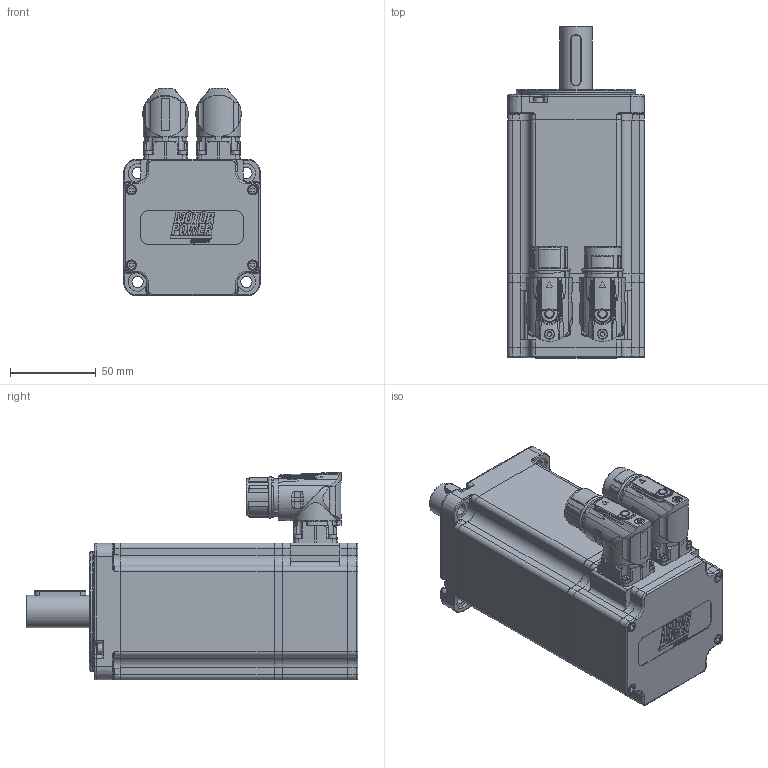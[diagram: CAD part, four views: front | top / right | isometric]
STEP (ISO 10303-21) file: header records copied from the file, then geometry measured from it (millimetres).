
FILE_DESCRIPTION(/* description */ ('Unknown'),/* implementation_level */ '2;1');
FILE_NAME(/* name */ 'TC4-80.3C.XX.X.3.M1.0.1.G2.33.80 Q0D209',/* time_stamp */ '2026-03-04T10:34:43+01:00',/* author */ ('Unknown'),/* organization */ ('Unknown'),/* preprocessor_version */ 'ST-DEVELOPER v19.4',/* originating_system */ 'Solid Edge',/* authorisation */ 'Unknown');
FILE_SCHEMA (('AUTOMOTIVE_DESIGN {1 0 10303 214 3 1 1}'));
Products named in the file (14): Q0D209 3C M1 VUOTO; 003151003154; 003107003286; 005911000192; 005113000500; 003155002234; 007117000454; 003103040148; 005911000185; 003003200297; 005119001500; 007117000456; 005911000202; 003251040719
Assembly tree (26 placements, depth 2):
  Q0D209 3C M1 VUOTO
    003151003154
    003107003286
    005911000192  x4
    005113000500
    003155002234
    007117000454
    003103040148
    005911000185  x8
    003003200297
    005119001500
    007117000456
    005911000202  x4
    003251040719
Bounding box: 80 x 194 x 121.5 mm (x, y, z)
Volume: 396757.4 mm3; surface area: 184002.8 mm2
Topology: 28 solids, 28 shells, 2332 faces, 5813 edges, 3735 vertices
Faces by surface type: plane 1039, cylinder 551, bspline 338, cone 255, torus 120, sphere 29
Full cylindrical faces by diameter (mm): 0.5 x1, 1 x21, 1.2 x17, 1.4 x4, 2 x4, 2.013 x12, 2.459 x20, 2.5 x9, 2.8 x4, 3 x20, 3.2 x1, 3.5 x18, 4.5 x2, 4.7 x8, 4.917 x1, 5.5 x10, 5.8 x1, 5.9 x2, 6 x9, 6.4 x1, 6.6 x4, 6.8 x1, 7 x4, 10 x1, 11 x4, 15 x2, 15.2 x1, 17.4 x3, 18 x1, 19 x2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
Entity records: 85495 total; most frequent: CARTESIAN_POINT 24184, ORIENTED_EDGE 9770, DIRECTION 8874, EDGE_CURVE 4885, AXIS2_PLACEMENT_3D 3371, VERTEX_POINT 3366, FACE_BOUND 2821, EDGE_LOOP 2799
